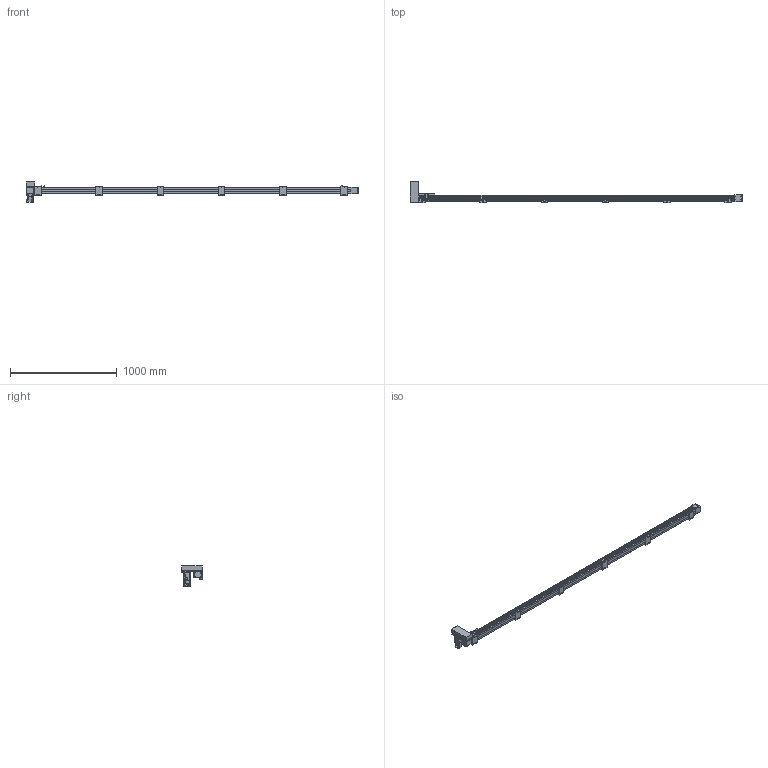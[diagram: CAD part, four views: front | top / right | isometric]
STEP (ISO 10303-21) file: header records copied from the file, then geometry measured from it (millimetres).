
FILE_DESCRIPTION(/* description */ ('STEP AP214'),/* implementation_level */ '2;1');
FILE_NAME(/* name */ 'SK60-P13-S2800-RU-T40-C1-N(0)',/* time_stamp */ '2023-04-06T05:05:54+02:00',/* author */ ('License CC BY-ND 4.0'),/* organization */ ('CADENAS'),/* preprocessor_version */ 'ST-DEVELOPER v19.3',/* originating_system */ 'PARTsolutions',/* authorisation */ ' ');
FILE_SCHEMA (('AUTOMOTIVE_DESIGN {1 0 10303 214 3 1 1}'));
Length unit declared in the file: millimetre
Products named in the file (10): SK60-P13-S2800-RU-T40-C1-N(0); PSC140-sensor; SK60-S450_seat; SK60-S450-BL-C1_slider; SK60_body3; SK60_body6; SK60-BL_body2; T40-p1; SK60-RU_fb; SK60-S2800-RU-C1_body
Assembly tree (20 placements, depth 2):
  SK60-P13-S2800-RU-T40-C1-N(0)
    PSC140-sensor  x3
    SK60-S450_seat  x6
    SK60-S450-BL-C1_slider
    SK60_body3  x3
    SK60_body6  x2
    SK60-BL_body2  x2
    T40-p1
    SK60-RU_fb
    SK60-S2800-RU-C1_body
Bounding box: 3105.5 x 201 x 189.7 mm (x, y, z)
Volume: 11740938.7 mm3; surface area: 1376710 mm2
Topology: 20 solids, 20 shells, 986 faces, 2440 edges, 1605 vertices
Faces by surface type: plane 620, cylinder 326, cone 38, torus 2
Full cylindrical faces by diameter (mm): 2.8 x3, 3.3 x4, 4 x2, 4.5 x30, 4.6 x3, 4.917 x32, 5 x6, 5.478 x4, 5.5 x35, 6.5 x12, 7 x2, 8 x4, 8.5 x4, 9.988 x4, 10 x24, 14 x1, 47 x3, 50 x2
Entity records: 18687 total; most frequent: DIRECTION 3192, CARTESIAN_POINT 3154, ORIENTED_EDGE 2940, EDGE_CURVE 1470, AXIS2_PLACEMENT_3D 1072, LINE 1048, VECTOR 1048, VERTEX_POINT 1034
